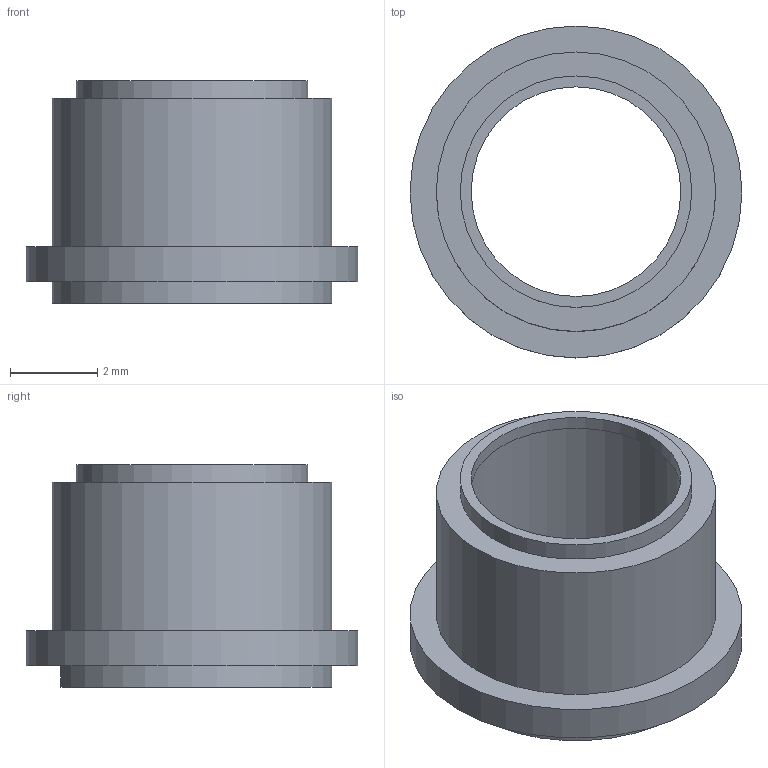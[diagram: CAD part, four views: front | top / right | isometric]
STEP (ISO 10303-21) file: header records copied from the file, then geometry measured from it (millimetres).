
FILE_DESCRIPTION(('Open CASCADE Model'),'2;1');
FILE_NAME('Open CASCADE Shape Model','2026-09-06T11:46:32',('Author'),( 'Open CASCADE'),'Open CASCADE STEP processor 7.7','Open CASCADE 7.7' ,'Unknown');
FILE_SCHEMA(('AUTOMOTIVE_DESIGN { 1 0 10303 214 1 1 1 1 }'));
Length unit declared in the file: millimetre
Products named in the file (1): Open CASCADE STEP translator 7.7 26
Bounding box: 7.6 x 7.6 x 5.1 mm (x, y, z)
Volume: 66.9 mm3; surface area: 240.1 mm2
Topology: 1 solids, 1 shells, 13 faces, 21 edges, 14 vertices
Faces by surface type: plane 7, cylinder 6
Full cylindrical faces by diameter (mm): 4.8 x1, 5.1 x1, 5.3 x1, 6.4 x1, 7.6 x1
Entity records: 603 total; most frequent: CARTESIAN_POINT 127, DIRECTION 92, ORIENTED_EDGE 42, PCURVE 42, DEFINITIONAL_REPRESENTATION 42, LINE 33, VECTOR 33, AXIS2_PLACEMENT_3D 26
